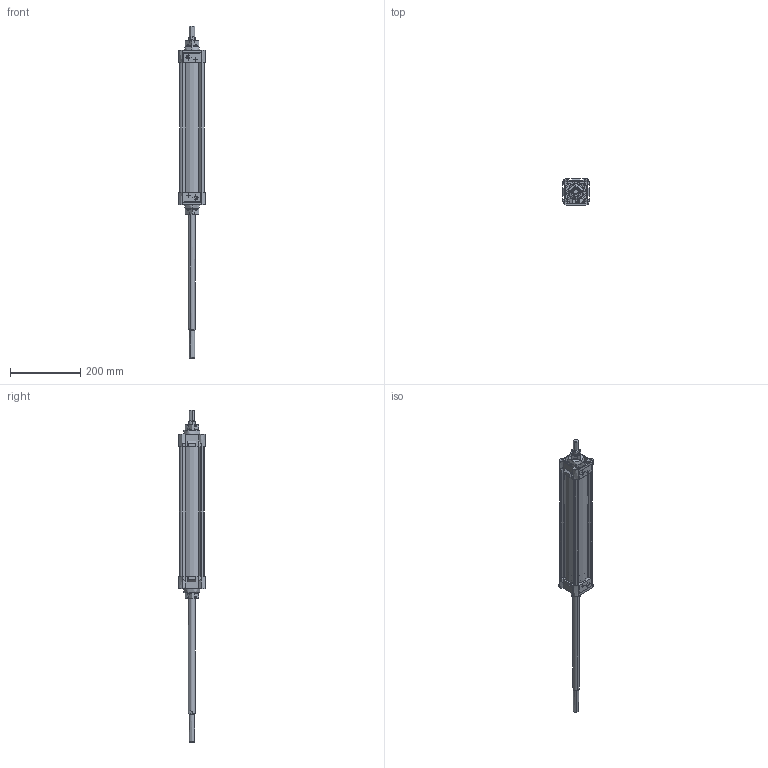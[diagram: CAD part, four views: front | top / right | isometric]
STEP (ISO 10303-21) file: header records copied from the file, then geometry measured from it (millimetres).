
FILE_DESCRIPTION (( 'STEP AP203' ), '1' );
FILE_NAME ('MDNC63X320CIFTMILLI-STROK AYARLI-CYLINDER.STEP', '2015-03-26T11:41:08', ( 'user' ), ( '' ), 'SwSTEP 2.0', 'SolidWorks 2013', '' );
FILE_SCHEMA (( 'CONFIG_CONTROL_DESIGN' ));
Length unit declared in the file: millimetre
Products named in the file (6): ORTA PÝSTON 63 ÇÝFT MÝLLÝ; Piston Mili 63x320; SAPLAMALI M尳 STROK AYARLI 63x320; MDNC63X320CIFTMILLI-STROK AYARLI-CYLINDER; 烰 KAPAK  63; MDNC 63X320 BORU
Assembly tree (6 placements, depth 2):
  MDNC63X320CIFTMILLI-STROK AYARLI-CYLINDER
    烰 KAPAK  63  x2
    MDNC 63X320 BORU
    ORTA PÝSTON 63 ÇÝFT MÝLLÝ
    Piston Mili 63x320
    SAPLAMALI M尳 STROK AYARLI 63x320
Bounding box: 76.04 x 75.84 x 947.1 mm (x, y, z)
Topology: 8 solids, 10 shells, 859 faces, 2261 edges, 1468 vertices
Faces by surface type: cylinder 417, plane 270, cone 94, bspline 78
Entity records: 22815 total; most frequent: CARTESIAN_POINT 9672, ORIENTED_EDGE 2790, DIRECTION 2334, EDGE_CURVE 1395, VERTEX_POINT 908, AXIS2_PLACEMENT_3D 898, EDGE_LOOP 615, ADVANCED_FACE 540
